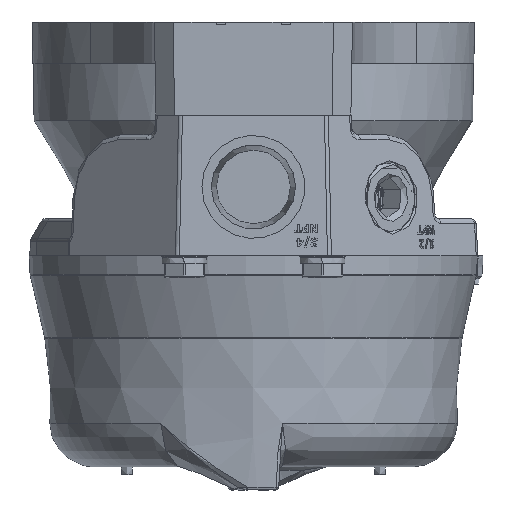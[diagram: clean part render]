
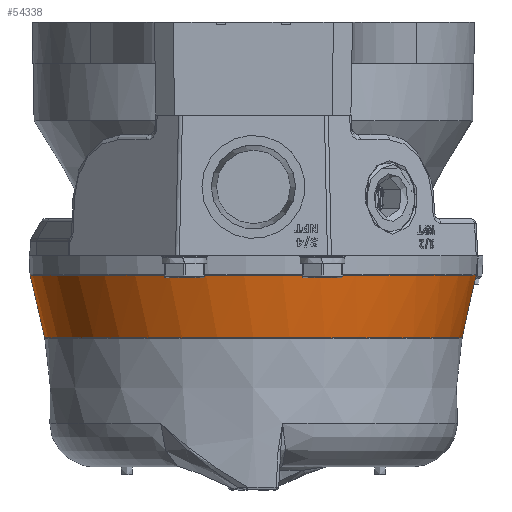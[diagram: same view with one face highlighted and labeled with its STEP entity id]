
A CAD part, front view. The second image highlights one B-rep face of the part: STEP entity #54338.
In plain terms, the highlighted conical face has half-angle 13.055 degrees and reference radius 59.573 mm.
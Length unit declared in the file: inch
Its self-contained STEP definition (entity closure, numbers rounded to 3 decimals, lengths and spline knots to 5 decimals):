
#560=CONICAL_SURFACE('',#58486,2.34538,0.228);
#5283=CIRCLE('',#58392,2.26696);
#5284=CIRCLE('',#58393,2.26696);
#5285=CIRCLE('',#58394,2.26696);
#5339=CIRCLE('',#58481,2.4238);
#5340=CIRCLE('',#58482,2.4238);
#9292=FACE_OUTER_BOUND('',#12197,.T.);
#12197=EDGE_LOOP('',(#45094,#45095,#45096,#45097,#45098,#45099,#45100,#45101,
#45102,#45103,#45104,#45105,#45106,#45107));
#15866=LINE('',#98038,#20220);
#15867=LINE('',#98087,#20221);
#15868=LINE('',#98088,#20222);
#20220=VECTOR('',#68572,0.3937);
#20221=VECTOR('',#68573,0.3937);
#20222=VECTOR('',#68574,2.34538);
#23012=B_SPLINE_CURVE_WITH_KNOTS('',3,(#98040,#98041,#98042,#98043,#98044,
#98045),.UNSPECIFIED.,.F.,.F.,(4,1,1,4),(-0.10287,-0.09061,
-0.0453,0.),.UNSPECIFIED.);
#23013=B_SPLINE_CURVE_WITH_KNOTS('',3,(#98047,#98048,#98049,#98050,#98051,
#98052,#98053,#98054),.UNSPECIFIED.,.F.,.F.,(4,2,2,4),(-0.00038,
0.,0.04626,0.08034),.UNSPECIFIED.);
#23014=B_SPLINE_CURVE_WITH_KNOTS('',3,(#98056,#98057,#98058,#98059,#98060,
#98061,#98062,#98063,#98064,#98065,#98066,#98067,#98068,#98069,#98070,#98071),
 .UNSPECIFIED.,.F.,.F.,(4,1,1,1,1,1,1,1,1,1,1,1,1,4),(0.37907,
1.35386,1.67878,1.84125,1.92248,2.00371,
2.08495,2.16618,2.24741,2.32864,2.57234,
2.81604,3.30343,3.79082),.UNSPECIFIED.);
#23015=B_SPLINE_CURVE_WITH_KNOTS('',3,(#98073,#98074,#98075,#98076,#98077,
#98078,#98079,#98080),.UNSPECIFIED.,.F.,.F.,(4,2,2,4),(0.00012,
0.0762,0.18002,0.18088),.UNSPECIFIED.);
#23016=B_SPLINE_CURVE_WITH_KNOTS('',3,(#98082,#98083,#98084,#98085,#98086),
 .UNSPECIFIED.,.F.,.F.,(4,1,4),(0.81798,0.86328,0.9209),
 .UNSPECIFIED.);
#26260=VERTEX_POINT('',#96223);
#26261=VERTEX_POINT('',#96224);
#26262=VERTEX_POINT('',#96226);
#26336=VERTEX_POINT('',#98018);
#26338=VERTEX_POINT('',#98025);
#26339=VERTEX_POINT('',#98030);
#26340=VERTEX_POINT('',#98037);
#26341=VERTEX_POINT('',#98039);
#26342=VERTEX_POINT('',#98046);
#26343=VERTEX_POINT('',#98055);
#26344=VERTEX_POINT('',#98072);
#26345=VERTEX_POINT('',#98081);
#32874=EDGE_CURVE('',#26260,#26261,#5283,.T.);
#32875=EDGE_CURVE('',#26262,#26260,#5284,.T.);
#32876=EDGE_CURVE('',#26261,#26262,#5285,.T.);
#33005=EDGE_CURVE('',#26338,#26339,#5339,.T.);
#33006=EDGE_CURVE('',#26339,#26336,#5340,.T.);
#33009=EDGE_CURVE('',#26340,#26338,#15866,.T.);
#33010=EDGE_CURVE('',#26341,#26340,#23012,.T.);
#33011=EDGE_CURVE('',#26342,#26341,#23013,.T.);
#33012=EDGE_CURVE('',#26343,#26342,#23014,.T.);
#33013=EDGE_CURVE('',#26344,#26343,#23015,.T.);
#33014=EDGE_CURVE('',#26345,#26344,#23016,.T.);
#33015=EDGE_CURVE('',#26336,#26345,#15867,.T.);
#33016=EDGE_CURVE('',#26339,#26262,#15868,.T.);
#45094=ORIENTED_EDGE('',*,*,#33005,.F.);
#45095=ORIENTED_EDGE('',*,*,#33009,.F.);
#45096=ORIENTED_EDGE('',*,*,#33010,.F.);
#45097=ORIENTED_EDGE('',*,*,#33011,.F.);
#45098=ORIENTED_EDGE('',*,*,#33012,.F.);
#45099=ORIENTED_EDGE('',*,*,#33013,.F.);
#45100=ORIENTED_EDGE('',*,*,#33014,.F.);
#45101=ORIENTED_EDGE('',*,*,#33015,.F.);
#45102=ORIENTED_EDGE('',*,*,#33006,.F.);
#45103=ORIENTED_EDGE('',*,*,#33016,.T.);
#45104=ORIENTED_EDGE('',*,*,#32875,.T.);
#45105=ORIENTED_EDGE('',*,*,#32874,.T.);
#45106=ORIENTED_EDGE('',*,*,#32876,.T.);
#45107=ORIENTED_EDGE('',*,*,#33016,.F.);
#54338=ADVANCED_FACE('',(#9292),#560,.T.);
#58392=AXIS2_PLACEMENT_3D('',#96225,#68377,#68378);
#58393=AXIS2_PLACEMENT_3D('',#96227,#68379,#68380);
#58394=AXIS2_PLACEMENT_3D('',#96228,#68381,#68382);
#58481=AXIS2_PLACEMENT_3D('',#98031,#68560,#68561);
#58482=AXIS2_PLACEMENT_3D('',#98032,#68562,#68563);
#58486=AXIS2_PLACEMENT_3D('',#98036,#68570,#68571);
#68377=DIRECTION('center_axis',(0.,0.,
1.));
#68378=DIRECTION('ref_axis',(0.,-1.,0.));
#68379=DIRECTION('center_axis',(0.,0.,
1.));
#68380=DIRECTION('ref_axis',(0.,-1.,0.));
#68381=DIRECTION('center_axis',(0.,0.,
1.));
#68382=DIRECTION('ref_axis',(0.,-1.,0.));
#68560=DIRECTION('center_axis',(0.,0.,
1.));
#68561=DIRECTION('ref_axis',(0.,-1.,0.));
#68562=DIRECTION('center_axis',(0.,0.,
1.));
#68563=DIRECTION('ref_axis',(0.,-1.,0.));
#68570=DIRECTION('center_axis',(0.,0.,
1.));
#68571=DIRECTION('ref_axis',(0.,-1.,0.));
#68572=DIRECTION('',(0.232,-0.139,0.963));
#68573=DIRECTION('',(-0.232,-0.139,-0.963));
#68574=DIRECTION('',(0.,-0.226,-0.974));
#96223=CARTESIAN_POINT('',(0.,-2.26696,-0.26262));
#96224=CARTESIAN_POINT('',(2.26696,0.,-0.26262));
#96225=CARTESIAN_POINT('Origin',(0.,0.,
-0.26262));
#96226=CARTESIAN_POINT('',(0.,2.26696,-0.26262));
#96227=CARTESIAN_POINT('Origin',(0.,0.,
-0.26262));
#96228=CARTESIAN_POINT('Origin',(0.,0.,
-0.26262));
#98018=CARTESIAN_POINT('',(2.41906,-0.1514,0.41376));
#98025=CARTESIAN_POINT('',(2.41906,0.1514,0.41376));
#98030=CARTESIAN_POINT('',(0.,2.4238,0.41376));
#98031=CARTESIAN_POINT('Origin',(0.,0.,
0.41376));
#98032=CARTESIAN_POINT('Origin',(0.,0.,
0.41376));
#98036=CARTESIAN_POINT('Origin',(0.,0.,
0.07557));
#98037=CARTESIAN_POINT('',(2.41861,0.15167,0.41188));
#98038=CARTESIAN_POINT('',(2.41861,0.15167,0.41188));
#98039=CARTESIAN_POINT('',(2.41078,0.13998,0.37514));
#98040=CARTESIAN_POINT('Ctrl Pts',(2.41078,0.13998,0.37515));
#98041=CARTESIAN_POINT('Ctrl Pts',(2.41099,0.14105,0.37632));
#98042=CARTESIAN_POINT('Ctrl Pts',(2.41204,0.14583,0.38204));
#98043=CARTESIAN_POINT('Ctrl Pts',(2.4145,0.15193,0.39428));
#98044=CARTESIAN_POINT('Ctrl Pts',(2.41723,0.1525,0.40616));
#98045=CARTESIAN_POINT('Ctrl Pts',(2.41861,0.15167,0.41188));
#98046=CARTESIAN_POINT('',(2.40299,0.17917,0.35278));
#98047=CARTESIAN_POINT('Ctrl Pts',(2.40299,0.17917,0.35278));
#98048=CARTESIAN_POINT('Ctrl Pts',(2.403,0.17913,0.35281));
#98049=CARTESIAN_POINT('Ctrl Pts',(2.40301,0.1791,0.35284));
#98050=CARTESIAN_POINT('Ctrl Pts',(2.40429,0.17474,0.35695));
#98051=CARTESIAN_POINT('Ctrl Pts',(2.40584,0.16911,0.36188));
#98052=CARTESIAN_POINT('Ctrl Pts',(2.40835,0.15739,0.36926));
#98053=CARTESIAN_POINT('Ctrl Pts',(2.4098,0.14971,0.37336));
#98054=CARTESIAN_POINT('Ctrl Pts',(2.41078,0.13998,0.37514));
#98055=CARTESIAN_POINT('',(2.40299,-0.17917,0.35278));
#98056=CARTESIAN_POINT('Ctrl Pts',(2.40299,-0.17917,
0.35278));
#98057=CARTESIAN_POINT('Ctrl Pts',(2.37461,-0.17127,
0.22821));
#98058=CARTESIAN_POINT('Ctrl Pts',(2.33743,-0.15278,
0.06189));
#98059=CARTESIAN_POINT('Ctrl Pts',(2.2978,-0.10357,
-0.11986));
#98060=CARTESIAN_POINT('Ctrl Pts',(2.28315,-0.07502,
-0.18767));
#98061=CARTESIAN_POINT('Ctrl Pts',(2.27542,-0.05254,
-0.22358));
#98062=CARTESIAN_POINT('Ctrl Pts',(2.27027,-0.03193,
-0.24761));
#98063=CARTESIAN_POINT('Ctrl Pts',(2.26722,0.0001,
-0.26183));
#98064=CARTESIAN_POINT('Ctrl Pts',(2.27028,0.03155,
-0.24754));
#98065=CARTESIAN_POINT('Ctrl Pts',(2.27542,0.0526,
-0.22359));
#98066=CARTESIAN_POINT('Ctrl Pts',(2.2851,0.0804,
-0.17858));
#98067=CARTESIAN_POINT('Ctrl Pts',(2.30001,0.10638,-0.1097));
#98068=CARTESIAN_POINT('Ctrl Pts',(2.32646,0.13837,0.01141));
#98069=CARTESIAN_POINT('Ctrl Pts',(2.36075,0.16369,0.16623));
#98070=CARTESIAN_POINT('Ctrl Pts',(2.3888,0.17522,0.29049));
#98071=CARTESIAN_POINT('Ctrl Pts',(2.40299,0.17917,0.35278));
#98072=CARTESIAN_POINT('',(2.41079,-0.1399,0.37517));
#98073=CARTESIAN_POINT('Ctrl Pts',(2.41079,-0.13989,0.37515));
#98074=CARTESIAN_POINT('Ctrl Pts',(2.40981,-0.14967,
0.37338));
#98075=CARTESIAN_POINT('Ctrl Pts',(2.40835,-0.15738,
0.36927));
#98076=CARTESIAN_POINT('Ctrl Pts',(2.40585,-0.16909,
0.36189));
#98077=CARTESIAN_POINT('Ctrl Pts',(2.40429,-0.17474,
0.35696));
#98078=CARTESIAN_POINT('Ctrl Pts',(2.40301,-0.1791,0.35284));
#98079=CARTESIAN_POINT('Ctrl Pts',(2.403,-0.17913,
0.35281));
#98080=CARTESIAN_POINT('Ctrl Pts',(2.40299,-0.17917,
0.35278));
#98081=CARTESIAN_POINT('',(2.41861,-0.15167,0.41188));
#98082=CARTESIAN_POINT('Ctrl Pts',(2.41861,-0.15167,
0.41188));
#98083=CARTESIAN_POINT('Ctrl Pts',(2.41723,-0.1525,
0.40616));
#98084=CARTESIAN_POINT('Ctrl Pts',(2.41408,-0.15191,
0.39243));
#98085=CARTESIAN_POINT('Ctrl Pts',(2.41179,-0.14498,
0.38074));
#98086=CARTESIAN_POINT('Ctrl Pts',(2.4108,-0.13991,
0.37519));
#98087=CARTESIAN_POINT('',(2.41906,-0.1514,0.41376));
#98088=CARTESIAN_POINT('',(0.,2.34538,0.07557));
